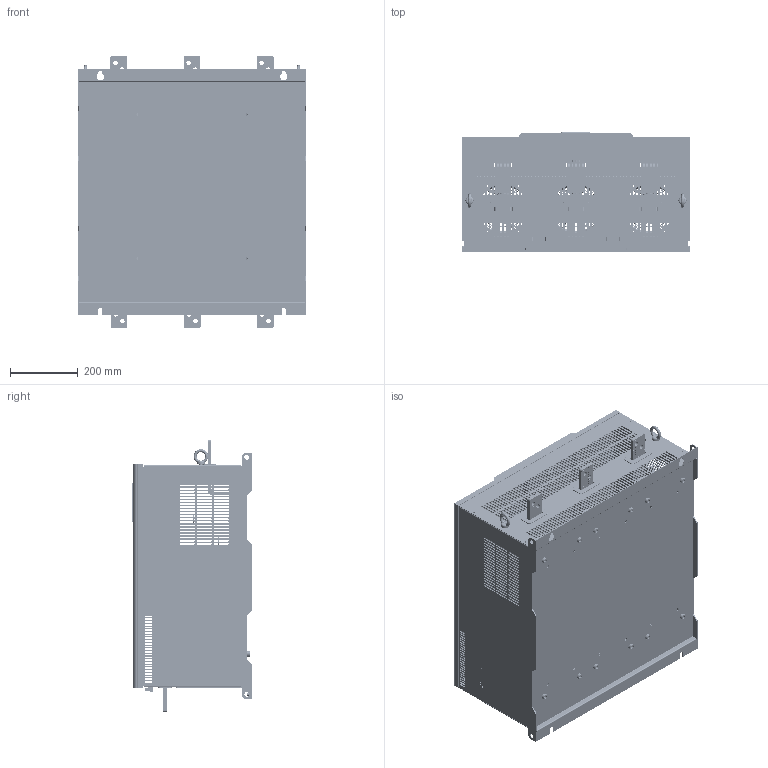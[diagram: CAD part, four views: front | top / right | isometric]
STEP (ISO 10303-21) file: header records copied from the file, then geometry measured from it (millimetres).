
FILE_DESCRIPTION((''),'2;1');
FILE_NAME('0-ZPT-500KW_ASM-20201209_ASM','2021-09-27T13:37:48',('ruanmm'),(''),'CREO PARAMETRIC BY PTC INC, 2020044','CREO PARAMETRIC BY PTC INC, 2020044','');
FILE_SCHEMA(('CONFIG_CONTROL_DESIGN','SHAPE_APPEARANCE_LAYERS_GROUPS'));
Products named in the file (126): NJR3-F4-WK-1_61; S-M5-2_2; E-M8_3_1; E-M8_3_2; E-M8_3_ASM; S-M10-2_3; NJR3-F4-WK-ASM-1_ASM_10_ASM; NJR3-F4-CEB-Y-1_96; NJR3-F4-ZHIJIA-1-1_8; S-M4-2_5; NJR3-F4-ZHIJIA-1-1_ASM_20_ASM; BOX-JIN-_2; M12-LUOMU_2; HOOP-M10_3; HOOP-ASM_ASM_2_ASM; NJR3-F4-CEB-Y-1_ASM_76_ASM; NJR3-F4-CEB-Z-1_83; NJR3-F4-CEB-Z-1_ASM_67_ASM; NJR3-F4-DIZUO-ASM_ASM_17_ASM; NJR3-F4-CEB-Q-1_74; NJR3-F4-CEB-Q-1-ASM_ASM_6_ASM; NJR3-F4-CEB-H-1_60; CEB-H_ASM_23_ASM; NJR3-F4-TB-ASM_ASM_3_ASM_ASM_5_ASM; PCB-5-MENG_1_1_3; NJR-5-PCB-2_1_1_3; NJR5-QIAO-PCB-22_1_1_3; PTB750B-03-5-06-3----7-62-4P__1; PTB750B-03-12---5-08-12P__1_1_1; CPU-DIANYUANBAN-ASM_ASM_2-15049_ASM; CPU-DIANYUANBAN-ASM_ASM_2-22518_ASM; PLASTIC-HASAMI_5_1_3; DYB-1_ASM_1_ASM_3_ASM; BYQ-ASM-R25_ASM_1_ASM; NJR3-F4-TB-_ASM_1_ASM_14_ASM; NJR3-F4-TB-_ASM-ALL_ASM_18_ASM; TOP-PLATE-NEW_21; NED-PL-A_6; TOP-PLATE-NEW-ASM_ASM_10_ASM; PVC-POST_2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
Assembly tree (205 placements, depth 9):
  0-ZPT-500KW_ASM-20201209_ASM
    0-ZPT-500KW_ASM_270_ASM
      NJR3-F4-DIZUO_ASM_125_ASM
        NJR3-F4-DIZUO-ASM_ASM_17_ASM
          NJR3-F4-WK-ASM-1_ASM_10_ASM
            NJR3-F4-WK-1_61
            S-M5-2_2  x2
            E-M8_3_ASM
              E-M8_3_1
              E-M8_3_2
            S-M10-2_3  x12
          NJR3-F4-CEB-Y-1_ASM_76_ASM
            NJR3-F4-CEB-Y-1_96
            S-M5-2_2  x7
            NJR3-F4-ZHIJIA-1-1_ASM_20_ASM  x6
              NJR3-F4-ZHIJIA-1-1_8
              S-M4-2_5
            HOOP-ASM_ASM_2_ASM
              BOX-JIN-_2
              M12-LUOMU_2
              HOOP-M10_3
          NJR3-F4-CEB-Z-1_ASM_67_ASM
            NJR3-F4-CEB-Z-1_83
            S-M5-2_2  x8
            NJR3-F4-ZHIJIA-1-1_ASM_20_ASM  x6
              NJR3-F4-ZHIJIA-1-1_8
              S-M4-2_5
            HOOP-ASM_ASM_2_ASM
              BOX-JIN-_2
              M12-LUOMU_2
              HOOP-M10_3
        NJR3-F4-CEB-Q-1-ASM_ASM_6_ASM
          NJR3-F4-CEB-Q-1_74
          NJR3-F4-ZHIJIA-1-1_ASM_20_ASM  x2
            NJR3-F4-ZHIJIA-1-1_8
            S-M4-2_5
        CEB-H_ASM_23_ASM
          NJR3-F4-CEB-H-1_60
        NJR3-F4-TB-_ASM-ALL_ASM_18_ASM
          NJR3-F4-TB-_ASM_1_ASM_14_ASM
            NJR3-F4-TB-ASM_ASM_3_ASM_ASM_5_ASM
            DYB-1_ASM_1_ASM_3_ASM
              CPU-DIANYUANBAN-ASM_ASM_2-22518_ASM
                CPU-DIANYUANBAN-ASM_ASM_2-15049_ASM
                  PCB-5-MENG_1_1_3
                  NJR-5-PCB-2_1_1_3
                  NJR5-QIAO-PCB-22_1_1_3
                  PTB750B-03-5-06-3----7-62-4P__1
                  PTB750B-03-12---5-08-12P__1_1_1
              PLASTIC-HASAMI_5_1_3
            BYQ-ASM-R25_ASM_1_ASM
        NJR3-F2-GAI-1__ASM_15_ASM
          TOP-PLATE-NEW-ASM_ASM_10_ASM
            TOP-PLATE-NEW_21
            NED-PL-A_6  x2
          PVC-POST_2
          048119__2
          ASM0003_ASM_2_ASM
            ZHONGZHUTU2__ASM_1_ASM_2_1_ASM__ASM
              SHANGGAI-XIN__2_1_1_2
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Bounding box: 674 x 354.2 x 801 mm (x, y, z)
Volume: 5858371 mm3; surface area: 4852552.4 mm2
Topology: 213 solids, 239 shells, 27815 faces, 75972 edges, 50345 vertices
Faces by surface type: plane 23347, cylinder 2782, extrusion 1186, torus 302, bspline 92, cone 84, sphere 14, revolution 8
Entity records: 470610 total; most frequent: CARTESIAN_POINT 84341, ORIENTED_EDGE 66142, DIRECTION 58080, EDGE_CURVE 33071, VECTOR 27648, LINE 26504, PRESENTATION_STYLE_ASSIGNMENT 22652, STYLED_ITEM 22652
